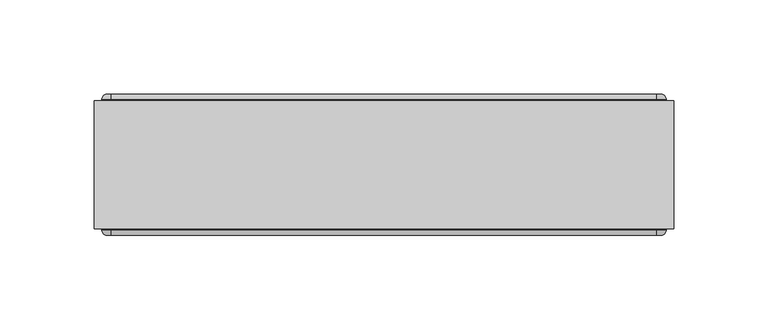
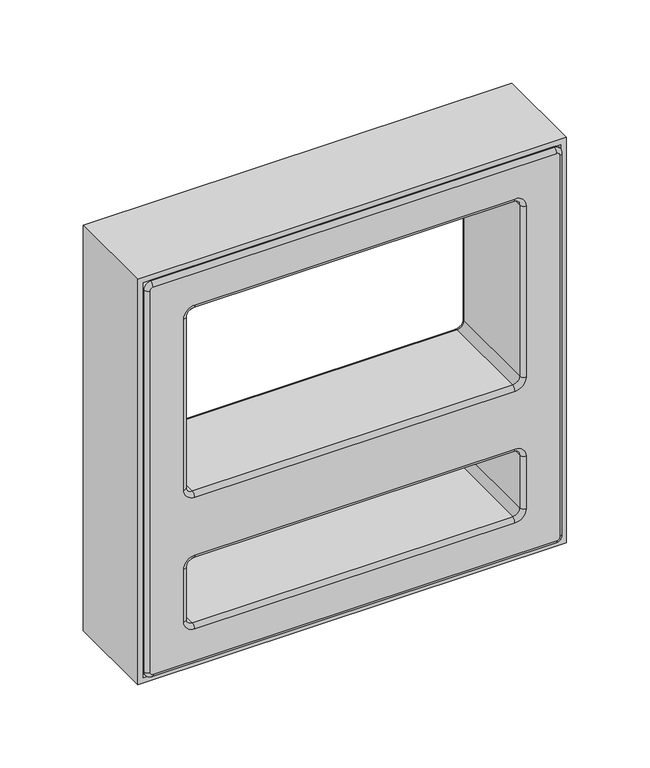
"""IFC4 building model written with IfcOpenShell, lengths in millimetres: proxy geometry, PORTOBELLO - ELEMENTO ASSIM BRANCO 30X30 (COBOGO) : ASSIM BRANCO."""

from ifc_helpers import new_model, si_unit, point, frame, origin, place, context, project, spatial, polyline, circle_curve, ellipse_curve, trimmed, outline, extrude, source, transform, mapped, element, save
from ifc_brep_helpers import plane_surface, cylinder_surface, revolved_surface, advanced_brep


def generic_models_d4af8894(model_context):
    return source(origin(), model_context, "Body", "SolidModel", [
        advanced_brep(
        [(147.0, -37.5, 299.0), (145.0, -37.5, 301.0), (-145.0, -37.5, 301.0), (-147.0, -37.5, 299.0), (-147.0, -37.5, 9.0), (-145.0, -37.5, 7.0), (145.0, -37.5, 7.0), (147.0, -37.5, 9.0), (115.0, -37.5, 277.0), (123.0, -37.5, 269.0), (123.0, -37.5, 139.0), (115.0, -37.5, 131.0), (-115.0, -37.5, 131.0), (-123.0, -37.5, 139.0), (-123.0, -37.5, 269.0), (-115.0, -37.5, 277.0), (115.0, -37.5, 87.0), (123.0, -37.5, 79.0), (123.0, -37.5, 39.0), (115.0, -37.5, 31.0), (-115.0, -37.5, 31.0), (-123.0, -37.5, 39.0), (-123.0, -37.5, 79.0), (-115.0, -37.5, 87.0), (145.0, 37.5, 301.0), (147.0, 37.5, 299.0), (147.0, 37.5, 9.0), (145.0, 37.5, 7.0), (-145.0, 37.5, 7.0), (-147.0, 37.5, 9.0), (-147.0, 37.5, 299.0), (-145.0, 37.5, 301.0), (123.0, 37.5, 269.0), (115.0, 37.5, 277.0), (-115.0, 37.5, 277.0), (-123.0, 37.5, 269.0), (-123.0, 37.5, 139.0), (-115.0, 37.5, 131.0), (115.0, 37.5, 131.0), (123.0, 37.5, 139.0), (123.0, 37.5, 79.0), (115.0, 37.5, 87.0), (-115.0, 37.5, 87.0), (-123.0, 37.5, 79.0), (-123.0, 37.5, 39.0), (-115.0, 37.5, 31.0), (115.0, 37.5, 31.0), (123.0, 37.5, 39.0), (150.0, -34.5000014, 299.0), (150.0, 34.5, 299.0), (145.0, 34.5, 304.0), (145.0, -34.5000025, 304.0), (-145.0, 34.5, 304.0), (-145.0, -34.5, 304.0), (-150.0, 34.5, 299.0), (-150.0, -34.5000025, 299.0), (-150.0, 34.5, 9.0), (-150.0, -34.5, 9.0), (-145.0, 34.5, 4.0), (-145.0, -34.5000025, 4.0), (145.0, 34.5, 4.0), (145.0, -34.5, 4.0), (150.0, 34.5, 9.0), (150.0, -34.5000025, 9.0), (-115.0, -34.5000026, 274.0), (-115.0, 34.5, 274.0), (115.0, 34.5, 274.0), (115.0, -34.5000016, 274.0), (120.0, 34.5, 269.0), (120.0, -34.5000016, 269.0), (120.0, 34.5, 139.0), (120.0, -34.5, 139.0), (115.0, 34.5, 134.0), (115.0, -34.5000016, 134.0), (-115.0, 34.5, 134.0), (-115.0, -34.5, 134.0), (-120.0, 34.5, 139.0), (-120.0, -34.5000017, 139.0), (-120.0, 34.5, 269.0), (-120.0, -34.5, 269.0), (115.0, -34.5000025, 34.0), (115.0, 34.5, 34.0), (-115.0, 34.5, 34.0), (-115.0, -34.5, 34.0), (-120.0, 34.5, 39.0), (-120.0, -34.5000016, 39.0), (-120.0, 34.5, 79.0), (-120.0, -34.5, 79.0), (-115.0, 34.5, 84.0), (-115.0, -34.5000016, 84.0), (115.0, 34.5, 84.0), (115.0, -34.5000016, 84.0), (120.0, 34.5, 79.0), (120.0, -34.5000016, 79.0), (120.0, 34.5, 39.0), (120.0, -34.5, 39.0)],
        [
            (0, 1, circle_curve(frame((145.0, -37.5, 299.0), z_axis=(0.0, -1.0, 0.0), x_axis=(1.0, 0.0, 0.0)), 2.0)),
            (1, 2),
            (2, 3, circle_curve(frame((-145.0, -37.5, 299.0), z_axis=(0.0, -1.0, 0.0), x_axis=(0.0, 0.0, 1.0)), 2.0)),
            (3, 4),
            (4, 5, circle_curve(frame((-145.0, -37.5, 9.0), z_axis=(0.0, -1.0, 0.0), x_axis=(-1.0, 0.0, 0.0)), 2.0)),
            (5, 6),
            (6, 7, circle_curve(frame((145.0, -37.5, 9.0), z_axis=(0.0, -1.0, 0.0), x_axis=(0.0, 0.0, -1.0)), 2.0)),
            (7, 0),
            (8, 9, circle_curve(frame((115.0, -37.5, 269.0), z_axis=(0.0, 1.0, 0.0), x_axis=(0.0, 0.0, 1.0)), 8.0)),
            (9, 10),
            (10, 11, circle_curve(frame((115.0, -37.5, 139.0), z_axis=(0.0, 1.0, 0.0), x_axis=(1.0, 0.0, 0.0)), 8.0)),
            (11, 12),
            (12, 13, circle_curve(frame((-115.0, -37.5, 139.0), z_axis=(0.0, 1.0, 0.0), x_axis=(0.0, 0.0, -1.0)), 8.0)),
            (13, 14),
            (14, 15, circle_curve(frame((-115.0, -37.5, 269.0), z_axis=(0.0, 1.0, 0.0), x_axis=(-1.0, 0.0, 0.0)), 8.0)),
            (15, 8),
            (16, 17, circle_curve(frame((115.0, -37.5, 79.0), z_axis=(0.0, 1.0, 0.0), x_axis=(0.0, 0.0, 1.0)), 8.0)),
            (17, 18),
            (18, 19, circle_curve(frame((115.0, -37.5, 39.0), z_axis=(0.0, 1.0, 0.0), x_axis=(1.0, 0.0, 0.0)), 8.0)),
            (19, 20),
            (20, 21, circle_curve(frame((-115.0, -37.5, 39.0), z_axis=(0.0, 1.0, 0.0), x_axis=(0.0, 0.0, -1.0)), 8.0)),
            (21, 22),
            (22, 23, circle_curve(frame((-115.0, -37.5, 79.0), z_axis=(0.0, 1.0, 0.0), x_axis=(-1.0, 0.0, 0.0)), 8.0)),
            (23, 16),
            (24, 25, circle_curve(frame((145.0, 37.5, 299.0), z_axis=(0.0, 1.0, 0.0), x_axis=(1.0, 0.0, 0.0)), 2.0)),
            (25, 26),
            (26, 27, circle_curve(frame((145.0, 37.5, 9.0), z_axis=(0.0, 1.0, 0.0), x_axis=(0.0, 0.0, -1.0)), 2.0)),
            (27, 28),
            (28, 29, circle_curve(frame((-145.0, 37.5, 9.0), z_axis=(0.0, 1.0, 0.0), x_axis=(-1.0, 0.0, 0.0)), 2.0)),
            (29, 30),
            (30, 31, circle_curve(frame((-145.0, 37.5, 299.0), z_axis=(0.0, 1.0, 0.0), x_axis=(0.0, 0.0, 1.0)), 2.0)),
            (31, 24),
            (32, 33, circle_curve(frame((115.0, 37.5, 269.0), z_axis=(0.0, -1.0, 0.0), x_axis=(0.0, 0.0, 1.0)), 8.0)),
            (33, 34),
            (34, 35, circle_curve(frame((-115.0, 37.5, 269.0), z_axis=(0.0, -1.0, 0.0), x_axis=(-1.0, 0.0, 0.0)), 8.0)),
            (35, 36),
            (36, 37, circle_curve(frame((-115.0, 37.5, 139.0), z_axis=(0.0, -1.0, 0.0), x_axis=(0.0, 0.0, -1.0)), 8.0)),
            (37, 38),
            (38, 39, circle_curve(frame((115.0, 37.5, 139.0), z_axis=(0.0, -1.0, 0.0), x_axis=(1.0, 0.0, 0.0)), 8.0)),
            (39, 32),
            (40, 41, circle_curve(frame((115.0, 37.5, 79.0), z_axis=(0.0, -1.0, 0.0), x_axis=(0.0, 0.0, 1.0)), 8.0)),
            (41, 42),
            (42, 43, circle_curve(frame((-115.0, 37.5, 79.0), z_axis=(0.0, -1.0, 0.0), x_axis=(-1.0, 0.0, 0.0)), 8.0)),
            (43, 44),
            (44, 45, circle_curve(frame((-115.0, 37.5, 39.0), z_axis=(0.0, -1.0, 0.0), x_axis=(0.0, 0.0, -1.0)), 8.0)),
            (45, 46),
            (46, 47, circle_curve(frame((115.0, 37.5, 39.0), z_axis=(0.0, -1.0, 0.0), x_axis=(1.0, 0.0, 0.0)), 8.0)),
            (47, 40),
            (48, 49),
            (49, 50, circle_curve(frame((145.0, 34.5, 299.0), z_axis=(0.0, -1.0, 0.0), x_axis=(0.0, 0.0, -1.0)), 5.0)),
            (50, 51),
            (51, 48, circle_curve(frame((145.0, -34.5, 299.0), z_axis=(0.0, 1.0, 0.0), x_axis=(0.0, 0.0, -1.0)), 5.0)),
            (50, 52),
            (52, 53),
            (53, 51),
            (52, 54, circle_curve(frame((-145.0, 34.5, 299.0), z_axis=(0.0, -1.0, 0.0), x_axis=(0.0, 0.0, -1.0)), 5.0)),
            (54, 55),
            (55, 53, circle_curve(frame((-145.0, -34.5, 299.0), z_axis=(0.0, 1.0, 0.0), x_axis=(0.0, 0.0, -1.0)), 5.0)),
            (54, 56),
            (56, 57),
            (57, 55),
            (56, 58, circle_curve(frame((-145.0, 34.5, 9.0), z_axis=(0.0, -1.0, 0.0), x_axis=(0.0, 0.0, -1.0)), 5.0)),
            (58, 59),
            (59, 57, circle_curve(frame((-145.0, -34.5, 9.0), z_axis=(0.0, 1.0, 0.0), x_axis=(0.0, 0.0, -1.0)), 5.0)),
            (58, 60),
            (60, 61),
            (61, 59),
            (60, 62, circle_curve(frame((145.0, 34.5, 9.0), z_axis=(0.0, -1.0, 0.0), x_axis=(0.0, 0.0, -1.0)), 5.0)),
            (62, 63),
            (63, 61, circle_curve(frame((145.0, -34.5, 9.0), z_axis=(0.0, 1.0, 0.0), x_axis=(0.0, 0.0, -1.0)), 5.0)),
            (48, 63),
            (62, 49),
            (64, 65),
            (65, 66),
            (66, 67),
            (67, 64),
            (66, 68, circle_curve(frame((115.0, 34.5, 269.0), z_axis=(0.0, 1.0, 0.0), x_axis=(0.0, 0.0, -1.0)), 5.0)),
            (68, 69),
            (69, 67, circle_curve(frame((115.0, -34.5, 269.0), z_axis=(0.0, -1.0, 0.0), x_axis=(0.0, 0.0, -1.0)), 5.0)),
            (68, 70),
            (70, 71),
            (71, 69),
            (70, 72, circle_curve(frame((115.0, 34.5, 139.0), z_axis=(0.0, 1.0, 0.0), x_axis=(0.0, 0.0, -1.0)), 5.0)),
            (72, 73),
            (73, 71, circle_curve(frame((115.0, -34.5, 139.0), z_axis=(0.0, -1.0, 0.0), x_axis=(0.0, 0.0, -1.0)), 5.0)),
            (72, 74),
            (74, 75),
            (75, 73),
            (74, 76, circle_curve(frame((-115.0, 34.5, 139.0), z_axis=(0.0, 1.0, 0.0), x_axis=(0.0, 0.0, -1.0)), 5.0)),
            (76, 77),
            (77, 75, circle_curve(frame((-115.0, -34.5, 139.0), z_axis=(0.0, -1.0, 0.0), x_axis=(0.0, 0.0, -1.0)), 5.0)),
            (76, 78),
            (78, 79),
            (79, 77),
            (64, 79, circle_curve(frame((-115.0, -34.5, 269.0), z_axis=(0.0, -1.0, 0.0), x_axis=(0.0, 0.0, -1.0)), 5.0)),
            (78, 65, circle_curve(frame((-115.0, 34.5, 269.0), z_axis=(0.0, 1.0, 0.0), x_axis=(0.0, 0.0, -1.0)), 5.0)),
            (80, 81),
            (81, 82),
            (82, 83),
            (83, 80),
            (82, 84, circle_curve(frame((-115.0, 34.5, 39.0), z_axis=(0.0, 1.0, 0.0), x_axis=(0.0, 0.0, -1.0)), 5.0)),
            (84, 85),
            (85, 83, circle_curve(frame((-115.0, -34.5, 39.0), z_axis=(0.0, -1.0, 0.0), x_axis=(0.0, 0.0, -1.0)), 5.0)),
            (84, 86),
            (86, 87),
            (87, 85),
            (86, 88, circle_curve(frame((-115.0, 34.5, 79.0), z_axis=(0.0, 1.0, 0.0), x_axis=(0.0, 0.0, -1.0)), 5.0)),
            (88, 89),
            (89, 87, circle_curve(frame((-115.0, -34.5, 79.0), z_axis=(0.0, -1.0, 0.0), x_axis=(0.0, 0.0, -1.0)), 5.0)),
            (88, 90),
            (90, 91),
            (91, 89),
            (90, 92, circle_curve(frame((115.0, 34.5, 79.0), z_axis=(0.0, 1.0, 0.0), x_axis=(0.0, 0.0, -1.0)), 5.0)),
            (92, 93),
            (93, 91, circle_curve(frame((115.0, -34.5, 79.0), z_axis=(0.0, -1.0, 0.0), x_axis=(0.0, 0.0, -1.0)), 5.0)),
            (92, 94),
            (94, 95),
            (95, 93),
            (80, 95, circle_curve(frame((115.0, -34.5, 39.0), z_axis=(0.0, -1.0, 0.0), x_axis=(0.0, 0.0, -1.0)), 5.0)),
            (94, 81, circle_curve(frame((115.0, 34.5, 39.0), z_axis=(0.0, 1.0, 0.0), x_axis=(0.0, 0.0, -1.0)), 5.0)),
            (51, 1, circle_curve(frame((145.0, -34.5, 301.0), z_axis=(1.0, 0.0, 0.0), x_axis=(0.0, -1.0, 0.0)), 3.0)),
            (0, 48, circle_curve(frame((147.0, -34.5, 299.0), z_axis=(0.0, 0.0, 1.0), x_axis=(0.0, -1.0, 0.0)), 3.0)),
            (53, 2, circle_curve(frame((-145.0, -34.5, 301.0), z_axis=(1.0, 0.0, 0.0), x_axis=(0.0, -1.0, 0.0)), 3.0)),
            (55, 3, circle_curve(frame((-147.0, -34.5, 299.0), z_axis=(0.0, 0.0, 1.0), x_axis=(0.0, -1.0, 0.0)), 3.0)),
            (57, 4, circle_curve(frame((-147.0, -34.5, 9.0), z_axis=(0.0, 0.0, 1.0), x_axis=(0.0, -1.0, 0.0)), 3.0)),
            (59, 5, circle_curve(frame((-145.0, -34.5, 7.0), z_axis=(-1.0, 0.0, 0.0), x_axis=(0.0, -1.0, 0.0)), 3.0)),
            (61, 6, circle_curve(frame((145.0, -34.5, 7.0), z_axis=(-1.0, 0.0, 0.0), x_axis=(0.0, -1.0, 0.0)), 3.0)),
            (63, 7, circle_curve(frame((147.0, -34.5, 9.0), z_axis=(0.0, 0.0, -1.0), x_axis=(0.0, -1.0, 0.0)), 3.0)),
            (24, 50, circle_curve(frame((145.0, 34.5, 301.0), z_axis=(1.0, 0.0, 0.0), x_axis=(0.0, -1.0, 0.0)), 3.0)),
            (49, 25, circle_curve(frame((147.0, 34.5, 299.0), z_axis=(0.0, 0.0, 1.0), x_axis=(0.0, -1.0, 0.0)), 3.0)),
            (31, 52, circle_curve(frame((-145.0, 34.5, 301.0), z_axis=(1.0, 0.0, 0.0), x_axis=(0.0, -1.0, 0.0)), 3.0)),
            (30, 54, circle_curve(frame((-147.0, 34.5, 299.0), z_axis=(0.0, 0.0, 1.0), x_axis=(0.0, -1.0, 0.0)), 3.0)),
            (29, 56, circle_curve(frame((-147.0, 34.5, 9.0), z_axis=(0.0, 0.0, 1.0), x_axis=(0.0, -1.0, 0.0)), 3.0)),
            (28, 58, circle_curve(frame((-145.0, 34.5, 7.0), z_axis=(-1.0, 0.0, 0.0), x_axis=(0.0, -1.0, 0.0)), 3.0)),
            (27, 60, circle_curve(frame((145.0, 34.5, 7.0), z_axis=(-1.0, 0.0, 0.0), x_axis=(0.0, -1.0, 0.0)), 3.0)),
            (26, 62, circle_curve(frame((147.0, 34.5, 9.0), z_axis=(0.0, 0.0, -1.0), x_axis=(0.0, -1.0, 0.0)), 3.0)),
            (69, 9, circle_curve(frame((123.0, -34.5, 269.0), z_axis=(0.0, 0.0, 1.0), x_axis=(0.0, -1.0, 0.0)), 3.0)),
            (8, 67, circle_curve(frame((115.0, -34.5, 277.0), z_axis=(1.0, 0.0, 0.0), x_axis=(0.0, -1.0, 0.0)), 3.0)),
            (71, 10, circle_curve(frame((123.0, -34.5, 139.0), z_axis=(0.0, 0.0, 1.0), x_axis=(0.0, -1.0, 0.0)), 3.0)),
            (73, 11, circle_curve(frame((115.0, -34.5, 131.0), z_axis=(1.0, 0.0, 0.0), x_axis=(0.0, -1.0, 0.0)), 3.0)),
            (75, 12, circle_curve(frame((-115.0, -34.5, 131.0), z_axis=(1.0, 0.0, 0.0), x_axis=(0.0, -1.0, 0.0)), 3.0)),
            (77, 13, circle_curve(frame((-123.0, -34.5, 139.0), z_axis=(0.0, 0.0, -1.0), x_axis=(0.0, -1.0, 0.0)), 3.0)),
            (79, 14, circle_curve(frame((-123.0, -34.5, 269.0), z_axis=(0.0, 0.0, -1.0), x_axis=(0.0, -1.0, 0.0)), 3.0)),
            (64, 15, circle_curve(frame((-115.0, -34.5, 277.0), z_axis=(-1.0, 0.0, 0.0), x_axis=(0.0, -1.0, 0.0)), 3.0)),
            (32, 68, circle_curve(frame((123.0, 34.5, 269.0), z_axis=(0.0, 0.0, 1.0), x_axis=(0.0, -1.0, 0.0)), 3.0)),
            (66, 33, circle_curve(frame((115.0, 34.5, 277.0), z_axis=(1.0, 0.0, 0.0), x_axis=(0.0, -1.0, 0.0)), 3.0)),
            (39, 70, circle_curve(frame((123.0, 34.5, 139.0), z_axis=(0.0, 0.0, 1.0), x_axis=(0.0, -1.0, 0.0)), 3.0)),
            (38, 72, circle_curve(frame((115.0, 34.5, 131.0), z_axis=(1.0, 0.0, 0.0), x_axis=(0.0, -1.0, 0.0)), 3.0)),
            (37, 74, circle_curve(frame((-115.0, 34.5, 131.0), z_axis=(1.0, 0.0, 0.0), x_axis=(0.0, -1.0, 0.0)), 3.0)),
            (36, 76, circle_curve(frame((-123.0, 34.5, 139.0), z_axis=(0.0, 0.0, -1.0), x_axis=(0.0, -1.0, 0.0)), 3.0)),
            (35, 78, circle_curve(frame((-123.0, 34.5, 269.0), z_axis=(0.0, 0.0, -1.0), x_axis=(0.0, -1.0, 0.0)), 3.0)),
            (34, 65, circle_curve(frame((-115.0, 34.5, 277.0), z_axis=(-1.0, 0.0, 0.0), x_axis=(0.0, -1.0, 0.0)), 3.0)),
            (93, 17, circle_curve(frame((123.0, -34.5, 79.0), z_axis=(0.0, 0.0, 1.0), x_axis=(0.0, -1.0, 0.0)), 3.0)),
            (16, 91, circle_curve(frame((115.0, -34.5, 87.0), z_axis=(1.0, 0.0, 0.0), x_axis=(0.0, -1.0, 0.0)), 3.0)),
            (40, 92, circle_curve(frame((123.0, 34.5, 79.0), z_axis=(0.0, 0.0, 1.0), x_axis=(0.0, -1.0, 0.0)), 3.0)),
            (90, 41, circle_curve(frame((115.0, 34.5, 87.0), z_axis=(1.0, 0.0, 0.0), x_axis=(0.0, -1.0, 0.0)), 3.0)),
            (95, 18, circle_curve(frame((123.0, -34.5, 39.0), z_axis=(0.0, 0.0, 1.0), x_axis=(0.0, -1.0, 0.0)), 3.0)),
            (47, 94, circle_curve(frame((123.0, 34.5, 39.0), z_axis=(0.0, 0.0, 1.0), x_axis=(0.0, -1.0, 0.0)), 3.0)),
            (80, 19, circle_curve(frame((115.0, -34.5, 31.0), z_axis=(1.0, 0.0, 0.0), x_axis=(0.0, -1.0, 0.0)), 3.0)),
            (46, 81, circle_curve(frame((115.0, 34.5, 31.0), z_axis=(1.0, 0.0, 0.0), x_axis=(0.0, -1.0, 0.0)), 3.0)),
            (83, 20, circle_curve(frame((-115.0, -34.5, 31.0), z_axis=(1.0, 0.0, 0.0), x_axis=(0.0, -1.0, 0.0)), 3.0)),
            (45, 82, circle_curve(frame((-115.0, 34.5, 31.0), z_axis=(1.0, 0.0, 0.0), x_axis=(0.0, -1.0, 0.0)), 3.0)),
            (85, 21, circle_curve(frame((-123.0, -34.5, 39.0), z_axis=(0.0, 0.0, -1.0), x_axis=(0.0, -1.0, 0.0)), 3.0)),
            (44, 84, circle_curve(frame((-123.0, 34.5, 39.0), z_axis=(0.0, 0.0, -1.0), x_axis=(0.0, -1.0, 0.0)), 3.0)),
            (87, 22, circle_curve(frame((-123.0, -34.5, 79.0), z_axis=(0.0, 0.0, -1.0), x_axis=(0.0, -1.0, 0.0)), 3.0)),
            (43, 86, circle_curve(frame((-123.0, 34.5, 79.0), z_axis=(0.0, 0.0, -1.0), x_axis=(0.0, -1.0, 0.0)), 3.0)),
            (89, 23, circle_curve(frame((-115.0, -34.5, 87.0), z_axis=(-1.0, 0.0, 0.0), x_axis=(0.0, -1.0, 0.0)), 3.0)),
            (42, 88, circle_curve(frame((-115.0, 34.5, 87.0), z_axis=(-1.0, 0.0, 0.0), x_axis=(0.0, -1.0, 0.0)), 3.0)),
        ],
        [
            plane_surface(frame((145.0, -37.5, 294.0), z_axis=(0.0, -1.0, 0.0), x_axis=(1.0, 0.0, 0.0))),
            plane_surface(frame((145.0, 37.5, 294.0), z_axis=(0.0, 1.0, 0.0), x_axis=(-1.0, 0.0, 0.0))),
            cylinder_surface(frame((145.0, 37.5, 299.0), z_axis=(0.0, -1.0, 0.0), x_axis=(0.0, 0.0, -1.0)), 5.0),
            plane_surface(frame((145.0, -37.5, 304.0), z_axis=(0.0, 0.0, 1.0), x_axis=(0.0, 1.0, 0.0))),
            cylinder_surface(frame((-145.0, 37.5, 299.0), z_axis=(0.0, -1.0, 0.0), x_axis=(0.0, 0.0, -1.0)), 5.0),
            plane_surface(frame((-150.0, -37.5, 299.0), z_axis=(-1.0, 0.0, 0.0), x_axis=(0.0, 1.0, 0.0))),
            cylinder_surface(frame((-145.0, 37.5, 9.0), z_axis=(0.0, -1.0, 0.0), x_axis=(0.0, 0.0, -1.0)), 5.0),
            plane_surface(frame((-145.0, -37.5, 4.0), z_axis=(0.0, 0.0, -1.0), x_axis=(0.0, 1.0, 0.0))),
            cylinder_surface(frame((145.0, 37.5, 9.0), z_axis=(0.0, -1.0, 0.0), x_axis=(0.0, 0.0, -1.0)), 5.0),
            plane_surface(frame((150.0, -37.5, 9.0), z_axis=(1.0, 0.0, 0.0), x_axis=(0.0, 1.0, 0.0))),
            plane_surface(frame((-115.0, -37.5, 274.0), z_axis=(0.0, 0.0, -1.0), x_axis=(0.0, 1.0, 0.0))),
            revolved_surface(polyline([(115.0, 34.5, 264.0), (115.0, -34.5000016, 264.0)]), (115.0, 0.0, 269.0), (0.0, 1.0, 0.0)),
            plane_surface(frame((120.0, -37.5, 269.0), z_axis=(-1.0, 0.0, 0.0), x_axis=(0.0, 1.0, 0.0))),
            revolved_surface(polyline([(115.0, 34.5, 134.0), (115.0, -34.5000016, 134.0)]), (115.0, 0.0, 139.0), (0.0, 1.0, 0.0)),
            plane_surface(frame((115.0, -37.5, 134.0), z_axis=(0.0, 0.0, 1.0), x_axis=(0.0, 1.0, 0.0))),
            revolved_surface(polyline([(-115.0, 34.5, 134.0), (-115.0, -34.5000017, 134.0)]), (-115.0, 0.0, 139.0), (0.0, 1.0, 0.0)),
            plane_surface(frame((-120.0, -37.5, 139.0), z_axis=(1.0, 0.0, 0.0), x_axis=(0.0, 1.0, 0.0))),
            revolved_surface(polyline([(-115.0, 34.5, 264.0), (-115.0, -34.5000026, 264.0)]), (-115.0, 0.0, 269.0), (0.0, 1.0, 0.0)),
            plane_surface(frame((115.0, -37.5, 34.0), z_axis=(0.0, 0.0, 1.0), x_axis=(0.0, 1.0, 0.0))),
            revolved_surface(polyline([(-115.0, 34.5, 34.0), (-115.0, -34.5000016, 34.0)]), (-115.0, 0.0, 39.0), (0.0, 1.0, 0.0)),
            plane_surface(frame((-120.0, -37.5, 39.0), z_axis=(1.0, 0.0, 0.0), x_axis=(0.0, 1.0, 0.0))),
            revolved_surface(polyline([(-115.0, 34.5, 74.0), (-115.0, -34.5000016, 74.0)]), (-115.0, 0.0, 79.0), (0.0, 1.0, 0.0)),
            plane_surface(frame((-115.0, -37.5, 84.0), z_axis=(0.0, 0.0, -1.0), x_axis=(0.0, 1.0, 0.0))),
            revolved_surface(polyline([(115.0, 34.5, 74.0), (115.0, -34.5000016, 74.0)]), (115.0, 0.0, 79.0), (0.0, 1.0, 0.0)),
            plane_surface(frame((120.0, -37.5, 79.0), z_axis=(-1.0, 0.0, 0.0), x_axis=(0.0, 1.0, 0.0))),
            revolved_surface(polyline([(115.0, 34.5, 34.0), (115.0, -34.5000025, 34.0)]), (115.0, 0.0, 39.0), (0.0, 1.0, 0.0)),
            revolved_surface(trimmed(ellipse_curve(frame((147.0, -34.5, 299.0), z_axis=(0.0, 0.0, -1.0), x_axis=(0.0, -1.0, 0.0)), 3.0, 3.0), [point((150.0, -34.5, 299.0))], [point((147.0, -37.5, 299.0))], True, "CARTESIAN"), (145.0, -37.5, 299.0), (0.0, -1.0, 0.0)),
            cylinder_surface(frame((145.0, -34.5, 301.0), z_axis=(-1.0, 0.0, 0.0), x_axis=(0.0, -1.0, 0.0)), 3.0),
            revolved_surface(trimmed(ellipse_curve(frame((-145.0, -34.5, 301.0), z_axis=(1.0, 0.0, 0.0), x_axis=(0.0, -1.0, 0.0)), 3.0, 3.0), [point((-145.0, -34.5, 304.0))], [point((-145.0, -37.5, 301.0))], True, "CARTESIAN"), (-145.0, -37.5, 299.0), (0.0, -1.0, 0.0)),
            cylinder_surface(frame((-147.0, -34.5, 299.0), z_axis=(0.0, 0.0, -1.0), x_axis=(0.0, -1.0, 0.0)), 3.0),
            revolved_surface(trimmed(ellipse_curve(frame((-147.0, -34.5, 9.0), z_axis=(0.0, 0.0, 1.0), x_axis=(0.0, -1.0, 0.0)), 3.0, 3.0), [point((-150.0, -34.5, 9.0))], [point((-147.0, -37.5, 9.0))], True, "CARTESIAN"), (-145.0, -37.5, 9.0), (0.0, -1.0, 0.0)),
            cylinder_surface(frame((-145.0, -34.5, 7.0), z_axis=(1.0, 0.0, 0.0), x_axis=(0.0, -1.0, 0.0)), 3.0),
            revolved_surface(trimmed(ellipse_curve(frame((145.0, -34.5, 7.0), z_axis=(-1.0, 0.0, 0.0), x_axis=(0.0, -1.0, 0.0)), 3.0, 3.0), [point((145.0, -34.5, 4.0))], [point((145.0, -37.5, 7.0))], True, "CARTESIAN"), (145.0, -37.5, 9.0), (0.0, -1.0, 0.0)),
            cylinder_surface(frame((147.0, -34.5, 9.0), z_axis=(0.0, 0.0, 1.0), x_axis=(0.0, -1.0, 0.0)), 3.0),
            revolved_surface(trimmed(ellipse_curve(frame((147.0, 34.5, 299.0), z_axis=(0.0, 0.0, -1.0), x_axis=(0.0, -1.0, 0.0)), 3.0, 3.0), [point((147.0, 37.5, 299.0))], [point((150.0, 34.5, 299.0))], True, "CARTESIAN"), (145.0, -37.5, 299.0), (0.0, -1.0, 0.0)),
            cylinder_surface(frame((145.0, 34.5, 301.0), z_axis=(-1.0, 0.0, 0.0), x_axis=(0.0, -1.0, 0.0)), 3.0),
            revolved_surface(trimmed(ellipse_curve(frame((-145.0, 34.5, 301.0), z_axis=(1.0, 0.0, 0.0), x_axis=(0.0, -1.0, 0.0)), 3.0, 3.0), [point((-145.0, 37.5, 301.0))], [point((-145.0, 34.5, 304.0))], True, "CARTESIAN"), (-145.0, -37.5, 299.0), (0.0, -1.0, 0.0)),
            cylinder_surface(frame((-147.0, 34.5, 299.0), z_axis=(0.0, 0.0, -1.0), x_axis=(0.0, -1.0, 0.0)), 3.0),
            revolved_surface(trimmed(ellipse_curve(frame((-147.0, 34.5, 9.0), z_axis=(0.0, 0.0, 1.0), x_axis=(0.0, -1.0, 0.0)), 3.0, 3.0), [point((-147.0, 37.5, 9.0))], [point((-150.0, 34.5, 9.0))], True, "CARTESIAN"), (-145.0, -37.5, 9.0), (0.0, -1.0, 0.0)),
            cylinder_surface(frame((-145.0, 34.5, 7.0), z_axis=(1.0, 0.0, 0.0), x_axis=(0.0, -1.0, 0.0)), 3.0),
            revolved_surface(trimmed(ellipse_curve(frame((145.0, 34.5, 7.0), z_axis=(-1.0, 0.0, 0.0), x_axis=(0.0, -1.0, 0.0)), 3.0, 3.0), [point((145.0, 37.5, 7.0))], [point((145.0, 34.5, 4.0))], True, "CARTESIAN"), (145.0, -37.5, 9.0), (0.0, -1.0, 0.0)),
            cylinder_surface(frame((147.0, 34.5, 9.0), z_axis=(0.0, 0.0, 1.0), x_axis=(0.0, -1.0, 0.0)), 3.0),
            revolved_surface(trimmed(ellipse_curve(frame((115.0, -34.5, 277.0), z_axis=(-1.0, 0.0, 0.0), x_axis=(0.0, -1.0, 0.0)), 3.0, 3.0), [point((115.0, -34.5, 274.0))], [point((115.0, -37.5, 277.0))], True, "CARTESIAN"), (115.0, -37.5, 269.0), (0.0, 1.0, 0.0)),
            cylinder_surface(frame((123.0, -34.5, 269.0), z_axis=(0.0, 0.0, -1.0), x_axis=(0.0, -1.0, 0.0)), 3.0),
            revolved_surface(trimmed(ellipse_curve(frame((123.0, -34.5, 139.0), z_axis=(0.0, 0.0, 1.0), x_axis=(0.0, -1.0, 0.0)), 3.0, 3.0), [point((120.0, -34.5, 139.0))], [point((123.0, -37.5, 139.0))], True, "CARTESIAN"), (115.0, -37.5, 139.0), (0.0, 1.0, 0.0)),
            cylinder_surface(frame((115.0, -34.5, 131.0), z_axis=(-1.0, 0.0, 0.0), x_axis=(0.0, -1.0, 0.0)), 3.0),
            revolved_surface(trimmed(ellipse_curve(frame((-115.0, -34.5, 131.0), z_axis=(1.0, 0.0, 0.0), x_axis=(0.0, -1.0, 0.0)), 3.0, 3.0), [point((-115.0, -34.5, 134.0))], [point((-115.0, -37.5, 131.0))], True, "CARTESIAN"), (-115.0, -37.5, 139.0), (0.0, 1.0, 0.0)),
            cylinder_surface(frame((-123.0, -34.5, 139.0), z_axis=(0.0, 0.0, 1.0), x_axis=(0.0, -1.0, 0.0)), 3.0),
            revolved_surface(trimmed(ellipse_curve(frame((-123.0, -34.5, 269.0), z_axis=(0.0, 0.0, -1.0), x_axis=(0.0, -1.0, 0.0)), 3.0, 3.0), [point((-120.0, -34.5, 269.0))], [point((-123.0, -37.5, 269.0))], True, "CARTESIAN"), (-115.0, -37.5, 269.0), (0.0, 1.0, 0.0)),
            cylinder_surface(frame((-115.0, -34.5, 277.0), z_axis=(1.0, 0.0, 0.0), x_axis=(0.0, -1.0, 0.0)), 3.0),
            revolved_surface(trimmed(ellipse_curve(frame((115.0, 34.5, 277.0), z_axis=(-1.0, 0.0, 0.0), x_axis=(0.0, -1.0, 0.0)), 3.0, 3.0), [point((115.0, 37.5, 277.0))], [point((115.0, 34.5, 274.0))], True, "CARTESIAN"), (115.0, -37.5, 269.0), (0.0, 1.0, 0.0)),
            cylinder_surface(frame((123.0, 34.5, 269.0), z_axis=(0.0, 0.0, -1.0), x_axis=(0.0, -1.0, 0.0)), 3.0),
            revolved_surface(trimmed(ellipse_curve(frame((123.0, 34.5, 139.0), z_axis=(0.0, 0.0, 1.0), x_axis=(0.0, -1.0, 0.0)), 3.0, 3.0), [point((123.0, 37.5, 139.0))], [point((120.0, 34.5, 139.0))], True, "CARTESIAN"), (115.0, -37.5, 139.0), (0.0, 1.0, 0.0)),
            cylinder_surface(frame((115.0, 34.5, 131.0), z_axis=(-1.0, 0.0, 0.0), x_axis=(0.0, -1.0, 0.0)), 3.0),
            revolved_surface(trimmed(ellipse_curve(frame((-115.0, 34.5, 131.0), z_axis=(1.0, 0.0, 0.0), x_axis=(0.0, -1.0, 0.0)), 3.0, 3.0), [point((-115.0, 37.5, 131.0))], [point((-115.0, 34.5, 134.0))], True, "CARTESIAN"), (-115.0, -37.5, 139.0), (0.0, 1.0, 0.0)),
            cylinder_surface(frame((-123.0, 34.5, 139.0), z_axis=(0.0, 0.0, 1.0), x_axis=(0.0, -1.0, 0.0)), 3.0),
            revolved_surface(trimmed(ellipse_curve(frame((-123.0, 34.5, 269.0), z_axis=(0.0, 0.0, -1.0), x_axis=(0.0, -1.0, 0.0)), 3.0, 3.0), [point((-123.0, 37.5, 269.0))], [point((-120.0, 34.5, 269.0))], True, "CARTESIAN"), (-115.0, -37.5, 269.0), (0.0, 1.0, 0.0)),
            cylinder_surface(frame((-115.0, 34.5, 277.0), z_axis=(1.0, 0.0, 0.0), x_axis=(0.0, -1.0, 0.0)), 3.0),
            revolved_surface(trimmed(ellipse_curve(frame((115.0, -34.5, 87.0), z_axis=(-1.0, 0.0, 0.0), x_axis=(0.0, -1.0, 0.0)), 3.0, 3.0), [point((115.0, -34.5, 84.0))], [point((115.0, -37.5, 87.0))], True, "CARTESIAN"), (115.0, -37.5, 79.0), (0.0, 1.0, 0.0)),
            revolved_surface(trimmed(ellipse_curve(frame((115.0, 34.5, 87.0), z_axis=(-1.0, 0.0, 0.0), x_axis=(0.0, -1.0, 0.0)), 3.0, 3.0), [point((115.0, 37.5, 87.0))], [point((115.0, 34.5, 84.0))], True, "CARTESIAN"), (115.0, -37.5, 79.0), (0.0, 1.0, 0.0)),
            cylinder_surface(frame((123.0, -34.5, 79.0), z_axis=(0.0, 0.0, -1.0), x_axis=(0.0, -1.0, 0.0)), 3.0),
            cylinder_surface(frame((123.0, 34.5, 79.0), z_axis=(0.0, 0.0, -1.0), x_axis=(0.0, -1.0, 0.0)), 3.0),
            revolved_surface(trimmed(ellipse_curve(frame((123.0, -34.5, 39.0), z_axis=(0.0, 0.0, 1.0), x_axis=(0.0, -1.0, 0.0)), 3.0, 3.0), [point((120.0, -34.5, 39.0))], [point((123.0, -37.5, 39.0))], True, "CARTESIAN"), (115.0, -37.5, 39.0), (0.0, 1.0, 0.0)),
            revolved_surface(trimmed(ellipse_curve(frame((123.0, 34.5, 39.0), z_axis=(0.0, 0.0, 1.0), x_axis=(0.0, -1.0, 0.0)), 3.0, 3.0), [point((123.0, 37.5, 39.0))], [point((120.0, 34.5, 39.0))], True, "CARTESIAN"), (115.0, -37.5, 39.0), (0.0, 1.0, 0.0)),
            cylinder_surface(frame((115.0, -34.5, 31.0), z_axis=(-1.0, 0.0, 0.0), x_axis=(0.0, -1.0, 0.0)), 3.0),
            cylinder_surface(frame((115.0, 34.5, 31.0), z_axis=(-1.0, 0.0, 0.0), x_axis=(0.0, -1.0, 0.0)), 3.0),
            revolved_surface(trimmed(ellipse_curve(frame((-115.0, -34.5, 31.0), z_axis=(1.0, 0.0, 0.0), x_axis=(0.0, -1.0, 0.0)), 3.0, 3.0), [point((-115.0, -34.5, 34.0))], [point((-115.0, -37.5, 31.0))], True, "CARTESIAN"), (-115.0, -37.5, 39.0), (0.0, 1.0, 0.0)),
            revolved_surface(trimmed(ellipse_curve(frame((-115.0, 34.5, 31.0), z_axis=(1.0, 0.0, 0.0), x_axis=(0.0, -1.0, 0.0)), 3.0, 3.0), [point((-115.0, 37.5, 31.0))], [point((-115.0, 34.5, 34.0))], True, "CARTESIAN"), (-115.0, -37.5, 39.0), (0.0, 1.0, 0.0)),
            cylinder_surface(frame((-123.0, -34.5, 39.0), z_axis=(0.0, 0.0, 1.0), x_axis=(0.0, -1.0, 0.0)), 3.0),
            cylinder_surface(frame((-123.0, 34.5, 39.0), z_axis=(0.0, 0.0, 1.0), x_axis=(0.0, -1.0, 0.0)), 3.0),
            revolved_surface(trimmed(ellipse_curve(frame((-123.0, -34.5, 79.0), z_axis=(0.0, 0.0, -1.0), x_axis=(0.0, -1.0, 0.0)), 3.0, 3.0), [point((-120.0, -34.5, 79.0))], [point((-123.0, -37.5, 79.0))], True, "CARTESIAN"), (-115.0, -37.5, 79.0), (0.0, 1.0, 0.0)),
            revolved_surface(trimmed(ellipse_curve(frame((-123.0, 34.5, 79.0), z_axis=(0.0, 0.0, -1.0), x_axis=(0.0, -1.0, 0.0)), 3.0, 3.0), [point((-123.0, 37.5, 79.0))], [point((-120.0, 34.5, 79.0))], True, "CARTESIAN"), (-115.0, -37.5, 79.0), (0.0, 1.0, 0.0)),
            cylinder_surface(frame((-115.0, -34.5, 87.0), z_axis=(1.0, 0.0, 0.0), x_axis=(0.0, -1.0, 0.0)), 3.0),
            cylinder_surface(frame((-115.0, 34.5, 87.0), z_axis=(1.0, 0.0, 0.0), x_axis=(0.0, -1.0, 0.0)), 3.0),
        ],
        [
            (0, [[1, 2, 3, 4, 5, 6, 7, 8], [9, 10, 11, 12, 13, 14, 15, 16], [17, 18, 19, 20, 21, 22, 23, 24]]),
            (1, [[25, 26, 27, 28, 29, 30, 31, 32], [33, 34, 35, 36, 37, 38, 39, 40], [41, 42, 43, 44, 45, 46, 47, 48]]),
            (2, [[49, 50, 51, 52]]),
            (3, [[-51, 53, 54, 55]]),
            (4, [[-54, 56, 57, 58]]),
            (5, [[-57, 59, 60, 61]]),
            (6, [[-60, 62, 63, 64]]),
            (7, [[-63, 65, 66, 67]]),
            (8, [[-66, 68, 69, 70]]),
            (9, [[-49, 71, -69, 72]]),
            (10, [[73, 74, 75, 76]]),
            (11, [[-75, 77, 78, 79]]),
            (12, [[-78, 80, 81, 82]]),
            (13, [[-81, 83, 84, 85]]),
            (14, [[-84, 86, 87, 88]]),
            (15, [[-87, 89, 90, 91]]),
            (16, [[-90, 92, 93, 94]]),
            (17, [[-73, 95, -93, 96]]),
            (18, [[97, 98, 99, 100]]),
            (19, [[-99, 101, 102, 103]]),
            (20, [[-102, 104, 105, 106]]),
            (21, [[-105, 107, 108, 109]]),
            (22, [[-108, 110, 111, 112]]),
            (23, [[-111, 113, 114, 115]]),
            (24, [[-114, 116, 117, 118]]),
            (25, [[-97, 119, -117, 120]]),
            (26, [[121, -1, 122, -52]]),
            (27, [[-121, -55, 123, -2]]),
            (28, [[-123, -58, 124, -3]]),
            (29, [[-124, -61, 125, -4]]),
            (30, [[-125, -64, 126, -5]]),
            (31, [[-126, -67, 127, -6]]),
            (32, [[-127, -70, 128, -7]]),
            (33, [[-122, -8, -128, -71]]),
            (34, [[129, -50, 130, -25]]),
            (35, [[-129, -32, 131, -53]]),
            (36, [[-131, -31, 132, -56]]),
            (37, [[-132, -30, 133, -59]]),
            (38, [[-133, -29, 134, -62]]),
            (39, [[-134, -28, 135, -65]]),
            (40, [[-135, -27, 136, -68]]),
            (41, [[-130, -72, -136, -26]]),
            (42, [[137, -9, 138, -79]]),
            (43, [[-137, -82, 139, -10]]),
            (44, [[-139, -85, 140, -11]]),
            (45, [[-140, -88, 141, -12]]),
            (46, [[-141, -91, 142, -13]]),
            (47, [[-142, -94, 143, -14]]),
            (48, [[-143, -95, 144, -15]]),
            (49, [[-138, -16, -144, -76]]),
            (50, [[145, -77, 146, -33]]),
            (51, [[-145, -40, 147, -80]]),
            (52, [[-147, -39, 148, -83]]),
            (53, [[-148, -38, 149, -86]]),
            (54, [[-149, -37, 150, -89]]),
            (55, [[-150, -36, 151, -92]]),
            (56, [[-151, -35, 152, -96]]),
            (57, [[-146, -74, -152, -34]]),
            (58, [[153, -17, 154, -115]]),
            (59, [[155, -113, 156, -41]]),
            (60, [[-153, -118, 157, -18]]),
            (61, [[-155, -48, 158, -116]]),
            (62, [[-157, -119, 159, -19]]),
            (63, [[-158, -47, 160, -120]]),
            (64, [[-159, -100, 161, -20]]),
            (65, [[-160, -46, 162, -98]]),
            (66, [[-161, -103, 163, -21]]),
            (67, [[-162, -45, 164, -101]]),
            (68, [[-163, -106, 165, -22]]),
            (69, [[-164, -44, 166, -104]]),
            (70, [[-165, -109, 167, -23]]),
            (71, [[-166, -43, 168, -107]]),
            (72, [[-154, -24, -167, -112]]),
            (73, [[-156, -110, -168, -42]]),
        ],
    ),
        extrude(outline(polyline([(308.0, -154.0), (0.0, -154.0), (0.0, 154.0), (308.0, 154.0), (308.0, -154.0)]), holes=[polyline([(4.0, -150.0), (304.0, -150.0), (304.0, 150.0), (4.0, 150.0), (4.0, -150.0)])]), frame((0.0, -34.0, 0.0), z_axis=(0.0, 1.0, 0.0), x_axis=(0.0, 0.0, 1.0)), (0.0, 0.0, 1.0), 68.0),
    ])


if __name__ == "__main__":
    model = new_model("IFC4")
    model_context = context("Model", 3, world=origin())
    ifc_project = project(units=[si_unit("LENGTHUNIT", "METRE", prefix="MILLI")], contexts=[model_context])
    site = spatial("IfcSite", under=ifc_project)
    building = spatial("IfcBuilding", under=site)
    placement = place(None, origin())
    generic_models_shape = generic_models_d4af8894(model_context)
    element("IfcBuildingElementProxy", 1, Name="PORTOBELLO - ELEMENTO ASSIM BRANCO 30X30 (COBOGO) : ASSIM BRANCO", ObjectType="PORTOBELLO - ELEMENTO ASSIM BRANCO 30X30 (COBOGO) : ASSIM BRANCO", at=placement, inside=building, context=model_context, shape_type="MappedRepresentation", body=[
        mapped(generic_models_shape, transform((0.0, 0.0, 0.0), x_axis=(1.0, 0.0, 0.0), y_axis=(0.0, 1.0, 0.0), z_axis=(0.0, 0.0, 1.0))),
    ])
    save(model, "model.ifc")
